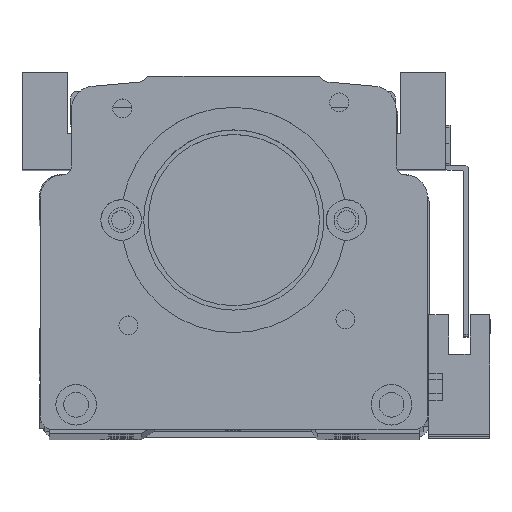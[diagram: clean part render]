
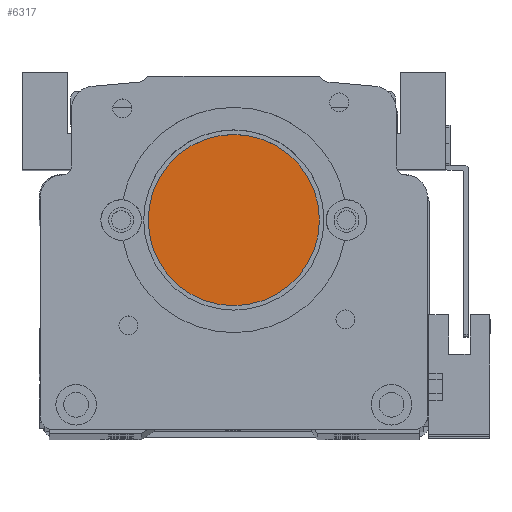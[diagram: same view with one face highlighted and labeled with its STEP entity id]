
A CAD part, top view. The second image highlights one B-rep face of the part: STEP entity #6317.
In plain terms, the highlighted planar face has unit normal (0, 0, 1) as drawn and (0, 0, -1) by its records, which use the part's own axes.
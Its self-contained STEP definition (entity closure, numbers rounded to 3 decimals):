
#1568 = DIRECTION ( 'NONE',  ( 0., 0., -1. ) ) ;
#2848 = CARTESIAN_POINT ( 'NONE',  ( 30., 39., 5. ) ) ;
#4686 = DIRECTION ( 'NONE',  ( -1., 0., 0. ) ) ;
#5202 = AXIS2_PLACEMENT_3D ( 'NONE', #17296, #6440, #19090 ) ;
#5833 = ORIENTED_EDGE ( 'NONE', *, *, #12335, .T. ) ;
#6115 = CARTESIAN_POINT ( 'NONE',  ( 11., 39., 5. ) ) ;
#6317 = ADVANCED_FACE ( 'NONE', ( #20152 ), #10573, .T. ) ;
#6440 = DIRECTION ( 'NONE',  ( 0., 0., -1. ) ) ;
#6553 = ORIENTED_EDGE ( 'NONE', *, *, #12308, .T. ) ;
#10573 = PLANE ( 'NONE',  #19064 ) ;
#12011 = EDGE_LOOP ( 'NONE', ( #5833, #6553 ) ) ;
#12308 = EDGE_CURVE ( 'NONE', #12746, #13149, #22618, .T. ) ;
#12335 = EDGE_CURVE ( 'NONE', #13149, #12746, #22556, .T. ) ;
#12746 = VERTEX_POINT ( 'NONE', #22936 ) ;
#13149 = VERTEX_POINT ( 'NONE', #6115 ) ;
#14181 = DIRECTION ( 'NONE',  ( -1., 0., 0. ) ) ;
#15515 = DIRECTION ( 'NONE',  ( 0., 0., -1. ) ) ;
#17296 = CARTESIAN_POINT ( 'NONE',  ( 30., 39., 5. ) ) ;
#19064 = AXIS2_PLACEMENT_3D ( 'NONE', #23059, #1568, #14181 ) ;
#19090 = DIRECTION ( 'NONE',  ( -1., 0., 0. ) ) ;
#20152 = FACE_OUTER_BOUND ( 'NONE', #12011, .T. ) ;
#20960 = AXIS2_PLACEMENT_3D ( 'NONE', #2848, #15515, #4686 ) ;
#22556 = CIRCLE ( 'NONE', #20960, 19. ) ;
#22618 = CIRCLE ( 'NONE', #5202, 19. ) ;
#22936 = CARTESIAN_POINT ( 'NONE',  ( 49., 39., 5. ) ) ;
#23059 = CARTESIAN_POINT ( 'NONE',  ( 30., 39., 5. ) ) ;
